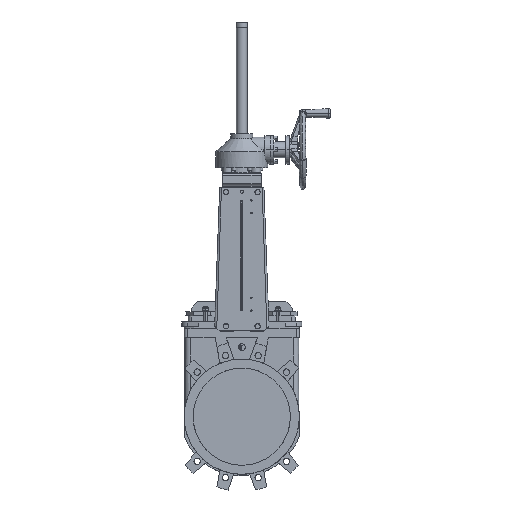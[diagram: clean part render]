
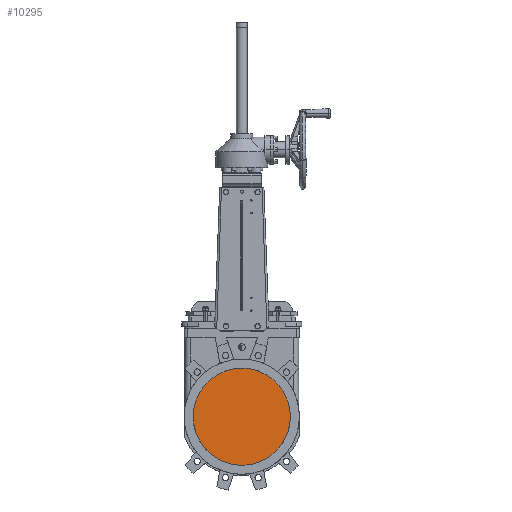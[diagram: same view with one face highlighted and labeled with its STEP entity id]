
A CAD part, top view. The second image highlights one B-rep face of the part: STEP entity #10295.
In plain terms, the highlighted planar face has unit normal (0, 0, 1).
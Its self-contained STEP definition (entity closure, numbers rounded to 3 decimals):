
#3726 = VERTEX_POINT ( 'NONE', #32763 ) ;
#3727 = EDGE_CURVE ( 'NONE', #4829, #3726, #32759, .T. ) ;
#4829 = VERTEX_POINT ( 'NONE', #6333 ) ;
#6333 = CARTESIAN_POINT ( 'NONE',  ( 160., 71.995, 5. ) ) ;
#10295 = ADVANCED_FACE ( 'NONE', ( #10347 ), #10346, .T. ) ;
#10298 = EDGE_LOOP ( 'NONE', ( #10301, #10307, #10308, #10423 ) ) ;
#10301 = ORIENTED_EDGE ( 'NONE', *, *, #10304, .T. ) ;
#10304 = EDGE_CURVE ( 'NONE', #10326, #4829, #10458, .T. ) ;
#10307 = ORIENTED_EDGE ( 'NONE', *, *, #3727, .T. ) ;
#10308 = ORIENTED_EDGE ( 'NONE', *, *, #10309, .F. ) ;
#10309 = EDGE_CURVE ( 'NONE', #10315, #3726, #10447, .T. ) ;
#10315 = VERTEX_POINT ( 'NONE', #10437 ) ;
#10326 = VERTEX_POINT ( 'NONE', #10535 ) ;
#10329 = EDGE_CURVE ( 'NONE', #10315, #10326, #10517, .T. ) ;
#10335 = DIRECTION ( 'NONE',  ( 1., 0., 0. ) ) ;
#10337 = DIRECTION ( 'NONE',  ( 0., 0., 1. ) ) ;
#10339 = CARTESIAN_POINT ( 'NONE',  ( -160., -232.046, 5. ) ) ;
#10344 = AXIS2_PLACEMENT_3D ( 'NONE', #10339, #10337, #10335 ) ;
#10346 = PLANE ( 'NONE',  #10344 ) ;
#10347 = FACE_OUTER_BOUND ( 'NONE', #10298, .T. ) ;
#10405 = CARTESIAN_POINT ( 'NONE',  ( 0., 10., 5. ) ) ;
#10423 = ORIENTED_EDGE ( 'NONE', *, *, #10329, .T. ) ;
#10437 = CARTESIAN_POINT ( 'NONE',  ( -160., -36.068, 5. ) ) ;
#10442 = DIRECTION ( 'NONE',  ( 0., 1., 0. ) ) ;
#10444 = VECTOR ( 'NONE', #10442, 1000. ) ;
#10446 = CARTESIAN_POINT ( 'NONE',  ( -160., -232.046, 5. ) ) ;
#10447 = LINE ( 'NONE', #10446, #10444 ) ;
#10452 = DIRECTION ( 'NONE',  ( 0., 1., 0. ) ) ;
#10454 = VECTOR ( 'NONE', #10452, 1000. ) ;
#10456 = CARTESIAN_POINT ( 'NONE',  ( 160., -232.046, 5. ) ) ;
#10458 = LINE ( 'NONE', #10456, #10454 ) ;
#10512 = DIRECTION ( 'NONE',  ( 1., 0., 0. ) ) ;
#10513 = DIRECTION ( 'NONE',  ( 0., 0., 1. ) ) ;
#10515 = AXIS2_PLACEMENT_3D ( 'NONE', #10405, #10513, #10512 ) ;
#10517 = CIRCLE ( 'NONE', #10515, 166.5 ) ;
#10535 = CARTESIAN_POINT ( 'NONE',  ( 160., -36.068, 5. ) ) ;
#32753 = DIRECTION ( 'NONE',  ( 1., 0., 0. ) ) ;
#32754 = DIRECTION ( 'NONE',  ( 0., 0., 1. ) ) ;
#32755 = CARTESIAN_POINT ( 'NONE',  ( 0., 0., 5. ) ) ;
#32757 = AXIS2_PLACEMENT_3D ( 'NONE', #32755, #32754, #32753 ) ;
#32759 = CIRCLE ( 'NONE', #32757, 175.452 ) ;
#32763 = CARTESIAN_POINT ( 'NONE',  ( -160., 71.995, 5. ) ) ;
